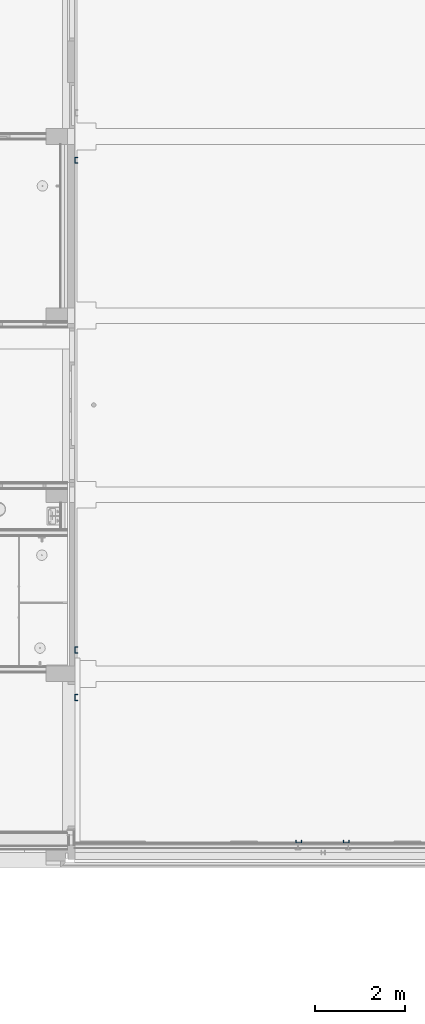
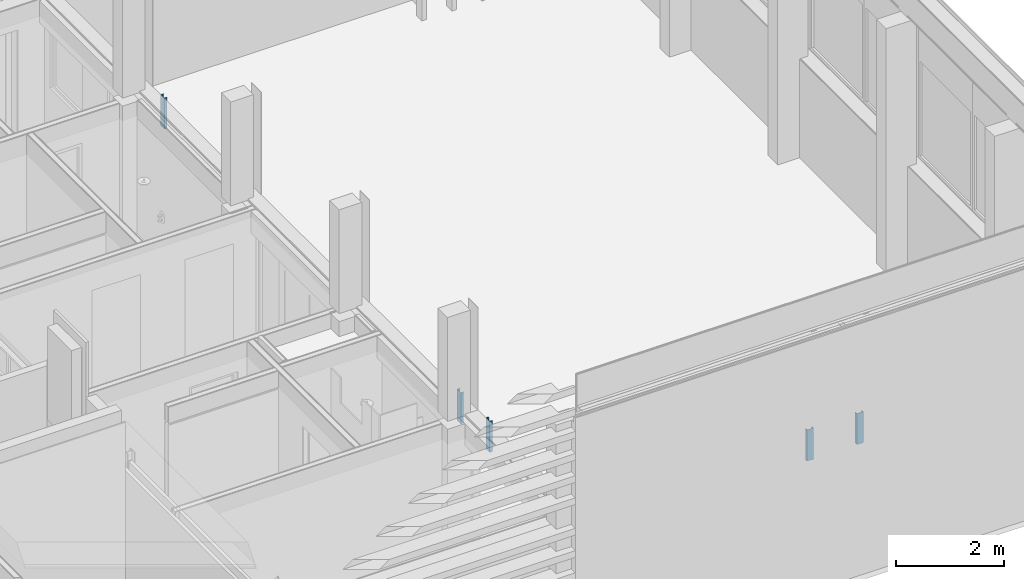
# One storey, part 10 of 109: 5 columns.
"""IFC2X3 building model written with IfcOpenShell, lengths in millimetres."""

from ifc_helpers import new_model, entity, si_unit, converted_unit, derived_unit, money_unit, direction, frame, origin_with_axes, place, context, subcontext, project, spatial, faceted_brep, material, type_object, element, save


model = new_model("IFC2X3")

# Units and contexts
model_context = context("Model", 3, precision=0.01, world=origin_with_axes(), true_north=direction((0.0, 1.0)))
body_context = subcontext(model_context, "Body", "Model", "MODEL_VIEW")
ifc_project = project(units=[si_unit("LENGTHUNIT", "METRE", prefix="MILLI"), si_unit("AREAUNIT", "SQUARE_METRE"), si_unit("VOLUMEUNIT", "CUBIC_METRE"), converted_unit("PLANEANGLEUNIT", "DEGREE", entity("IfcPlaneAngleMeasure", 0.0174532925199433), si_unit("PLANEANGLEUNIT", "RADIAN"), dimensions=[0, 0, 0, 0, 0, 0, 0]), money_unit("EUR"), converted_unit("TIMEUNIT", "Year", entity("IfcTimeMeasure", 31557600.0), si_unit("TIMEUNIT", "SECOND"), dimensions=[0, 0, 1, 0, 0, 0, 0]), si_unit("MASSUNIT", "GRAM", prefix="KILO"), si_unit("THERMODYNAMICTEMPERATUREUNIT", "DEGREE_CELSIUS"), si_unit("LUMINOUSINTENSITYUNIT", "LUMEN"), si_unit("ENERGYUNIT", "JOULE", prefix="MEGA"), derived_unit("THERMALCONDUCTANCEUNIT", [(si_unit("POWERUNIT", "WATT"), 1), (si_unit("LENGTHUNIT", "METRE"), -1), (si_unit("THERMODYNAMICTEMPERATUREUNIT", "KELVIN"), -1)]), derived_unit("SPECIFICHEATCAPACITYUNIT", [(si_unit("ENERGYUNIT", "JOULE"), 1), (si_unit("MASSUNIT", "GRAM", prefix="KILO"), -1), (si_unit("THERMODYNAMICTEMPERATUREUNIT", "KELVIN"), -1)]), derived_unit("MASSDENSITYUNIT", [(si_unit("MASSUNIT", "GRAM", prefix="KILO"), 1), (si_unit("VOLUMEUNIT", "CUBIC_METRE"), -1)])], contexts=[model_context])

# Site, building, storey
site_placement = place(None, origin_with_axes())
site = spatial("IfcSite", under=ifc_project, at=site_placement, Name="<site naam>", CompositionType="ELEMENT")
building_placement = place(site_placement, origin_with_axes())
building = spatial("IfcBuilding", under=site, at=building_placement, Name="<Naam gebouw>", CompositionType="ELEMENT")
storey_placement = place(building_placement, origin_with_axes())
storey = spatial("IfcBuildingStorey", under=building, at=storey_placement, Name="00 Begane grond", CompositionType="ELEMENT", Elevation=0.0)

# Columns
ifc_material = material(Name="staal")
column_type = type_object("IfcColumnType", Name="Profiel UPN algemeen 60 x 140", PredefinedType="COLUMN")
column_1_placement = place(storey_placement, frame((58324.99985746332, 3399.99999999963, 2488.0), z_axis=(0.0, 0.0, 1.0), x_axis=(-1.0, 0.0, 0.0)))
element("IfcColumn", 1, at=column_1_placement, inside=storey, type_object=column_type, material=ifc_material, Name="28_Kolom_Profiel", ObjectType="COLUMN", context=body_context, shape_type="Brep", body=[
    faceted_brep([(-60.00019651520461, -9.999999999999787, 699.9999999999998), (-60.00019651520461, -9.999999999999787, 0.0), (-6.999999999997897, -9.999999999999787, 0.0), (-6.999999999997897, -9.999999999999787, 699.9999999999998), (-60.00024564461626, 0.0, 699.9999999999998), (-60.00024564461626, 0.0, 0.0), (0.0, 0.0, 0.0), (0.0, -140.0006629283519, 0.0), (-60.00024564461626, -140.0006629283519, 0.0), (-60.00019651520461, -130.0006629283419, 0.0), (-6.999999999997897, -130.0006629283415, 0.0), (-6.999999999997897, -130.0006629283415, 699.9999999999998), (-60.00019651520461, -130.0006629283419, 699.9999999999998), (-60.00024564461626, -140.0006629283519, 699.9999999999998), (0.0, -140.0006629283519, 699.9999999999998), (0.0, 0.0, 699.9999999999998)], [[[0, 1, 2, 3]], [[4, 5, 1, 0]], [[2, 1, 5, 6, 7, 8, 9, 10]], [[3, 2, 10, 11]], [[4, 0, 3, 11, 12, 13, 14, 15]], [[15, 6, 5, 4]], [[14, 7, 6, 15]], [[13, 8, 7, 14]], [[12, 9, 8, 13]], [[11, 10, 9, 12]]]),
])
column_2_placement = place(storey_placement, frame((58324.99985746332, 4600.000000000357, 2488.0), z_axis=(0.0, 0.0, 1.0), x_axis=(1.0, 0.0, 0.0)))
element("IfcColumn", 2, at=column_2_placement, inside=storey, type_object=column_type, material=ifc_material, Name="28_Kolom_Profiel", ObjectType="COLUMN", context=body_context, shape_type="Brep", body=[
    faceted_brep([(60.00024564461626, 0.0, 699.9999999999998), (60.00024564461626, 0.0, 0.0), (0.0, 0.0, 0.0), (0.0, 0.0, 699.9999999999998), (60.00019651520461, -9.999999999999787, 699.9999999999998), (60.00019651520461, -9.999999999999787, 0.0), (6.999999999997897, -9.999999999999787, 0.0), (6.999999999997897, -130.0006629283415, 0.0), (60.00019651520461, -130.0006629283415, 0.0), (60.00024564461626, -140.0006629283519, 0.0), (0.0, -140.0006629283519, 0.0), (0.0, -140.0006629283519, 699.9999999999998), (60.00024564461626, -140.0006629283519, 699.9999999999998), (60.00019651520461, -130.0006629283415, 699.9999999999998), (6.999999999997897, -130.0006629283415, 699.9999999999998), (6.999999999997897, -9.999999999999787, 699.9999999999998)], [[[0, 1, 2, 3]], [[4, 5, 1, 0]], [[2, 1, 5, 6, 7, 8, 9, 10]], [[3, 2, 10, 11]], [[4, 0, 3, 11, 12, 13, 14, 15]], [[15, 6, 5, 4]], [[14, 7, 6, 15]], [[13, 8, 7, 14]], [[12, 9, 8, 13]], [[11, 10, 9, 12]]]),
])
column_3_placement = place(storey_placement, frame((58324.99985746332, 15400.00066292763, 2488.0), z_axis=(0.0, 0.0, 1.0), x_axis=(-1.0, 0.0, 0.0)))
element("IfcColumn", 3, at=column_3_placement, inside=storey, type_object=column_type, material=ifc_material, Name="28_Kolom_Profiel", ObjectType="COLUMN", context=body_context, shape_type="Brep", body=[
    faceted_brep([(-60.00019651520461, -9.999999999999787, 699.9999999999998), (-60.00019651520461, -9.999999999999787, 0.0), (-6.999999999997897, -9.999999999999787, 0.0), (-6.999999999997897, -9.999999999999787, 699.9999999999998), (-60.00024564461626, 0.0, 699.9999999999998), (-60.00024564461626, 0.0, 0.0), (0.0, 0.0, 0.0), (0.0, -140.000662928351, 0.0), (-60.00024564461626, -140.000662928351, 0.0), (-60.00019651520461, -130.0006629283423, 0.0), (-6.999999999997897, -130.0006629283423, 0.0), (-6.999999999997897, -130.0006629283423, 699.9999999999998), (-60.00019651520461, -130.0006629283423, 699.9999999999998), (-60.00024564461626, -140.000662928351, 699.9999999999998), (0.0, -140.000662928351, 699.9999999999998), (0.0, 0.0, 699.9999999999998)], [[[0, 1, 2, 3]], [[4, 5, 1, 0]], [[2, 1, 5, 6, 7, 8, 9, 10]], [[3, 2, 10, 11]], [[4, 0, 3, 11, 12, 13, 14, 15]], [[15, 6, 5, 4]], [[14, 7, 6, 15]], [[13, 8, 7, 14]], [[12, 9, 8, 13]], [[11, 10, 9, 12]]]),
])
column_4_placement = place(storey_placement, frame((64454.84363037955, 225.9105791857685, 2488.0), z_axis=(0.0, 0.0, 1.0), x_axis=(0.0, -1.0, 0.0)))
element("IfcColumn", 4, at=column_4_placement, inside=storey, type_object=column_type, material=ifc_material, Name="28_Kolom_Profiel", ObjectType="COLUMN", context=body_context, shape_type="Brep", body=[
    faceted_brep([(-60.00019651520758, -10.00000000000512, 699.9999999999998), (-60.00019651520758, -10.00000000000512, 0.0), (-7.000000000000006, -10.00000000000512, 0.0), (-7.000000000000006, -10.00000000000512, 699.9999999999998), (-60.00024564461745, 0.0, 699.9999999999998), (-60.00024564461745, 0.0, 0.0), (0.0, 0.0, 0.0), (0.0, -140.0006629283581, 0.0), (-60.00024564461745, -140.0006629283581, 0.0), (-60.00019651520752, -130.0006629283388, 0.0), (-7.000000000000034, -130.0006629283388, 0.0), (-7.000000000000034, -130.0006629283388, 699.9999999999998), (-60.00019651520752, -130.0006629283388, 699.9999999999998), (-60.00024564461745, -140.0006629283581, 699.9999999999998), (0.0, -140.0006629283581, 699.9999999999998), (0.0, 0.0, 699.9999999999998)], [[[0, 1, 2, 3]], [[4, 5, 1, 0]], [[2, 1, 5, 6, 7, 8, 9, 10]], [[3, 2, 10, 11]], [[4, 0, 3, 11, 12, 13, 14, 15]], [[15, 6, 5, 4]], [[14, 7, 6, 15]], [[13, 8, 7, 14]], [[12, 9, 8, 13]], [[11, 10, 9, 12]]]),
])
column_5_placement = place(storey_placement, frame((63254.84363037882, 225.9105791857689, 2488.0), z_axis=(0.0, 0.0, 1.0), x_axis=(0.0, 1.0, 0.0)))
element("IfcColumn", 5, at=column_5_placement, inside=storey, type_object=column_type, material=ifc_material, Name="28_Kolom_Profiel", ObjectType="COLUMN", context=body_context, shape_type="Brep", body=[
    faceted_brep([(60.00024564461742, 0.0, 699.9999999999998), (60.00024564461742, 0.0, 0.0), (0.0, 0.0, 0.0), (0.0, 0.0, 699.9999999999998), (60.00019651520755, -9.99999999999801, 699.9999999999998), (60.00019651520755, -9.99999999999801, 0.0), (7.000000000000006, -9.99999999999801, 0.0), (6.999999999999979, -130.0006629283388, 0.0), (60.00019651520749, -130.0006629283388, 0.0), (60.00024564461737, -140.000662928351, 0.0), (0.0, -140.000662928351, 0.0), (0.0, -140.000662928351, 699.9999999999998), (60.00024564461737, -140.000662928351, 699.9999999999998), (60.00019651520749, -130.0006629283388, 699.9999999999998), (6.999999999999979, -130.0006629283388, 699.9999999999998), (7.000000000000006, -9.99999999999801, 699.9999999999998)], [[[0, 1, 2, 3]], [[4, 5, 1, 0]], [[2, 1, 5, 6, 7, 8, 9, 10]], [[3, 2, 10, 11]], [[4, 0, 3, 11, 12, 13, 14, 15]], [[15, 6, 5, 4]], [[14, 7, 6, 15]], [[13, 8, 7, 14]], [[12, 9, 8, 13]], [[11, 10, 9, 12]]]),
])

save(model, "model.ifc")
